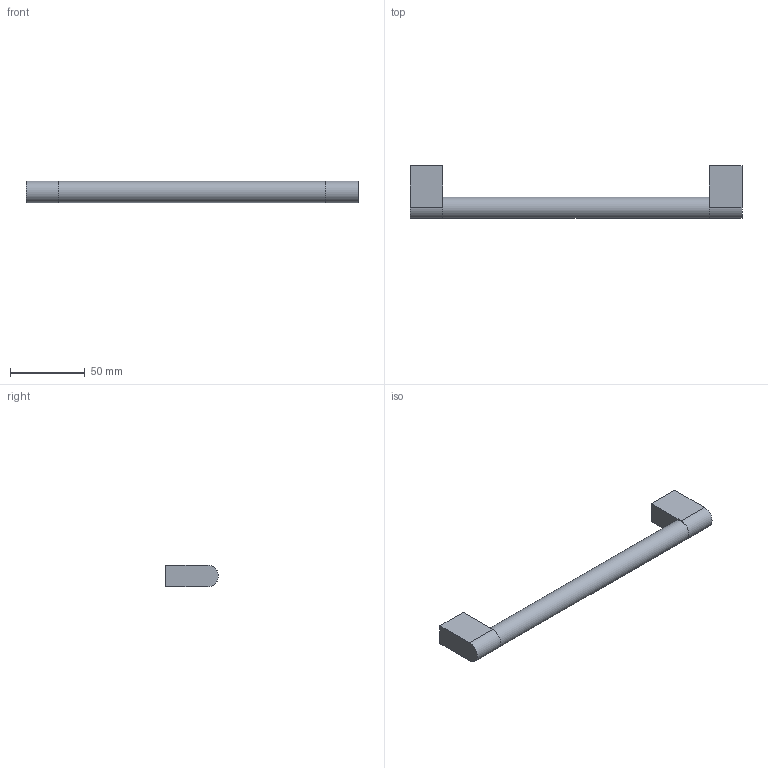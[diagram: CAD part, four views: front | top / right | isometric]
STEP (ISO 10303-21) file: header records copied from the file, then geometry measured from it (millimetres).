
FILE_DESCRIPTION( ( 'STEP AP214' ), '1' );
FILE_NAME( 'C:/Shahbaz/Shahbaz D&D/Task/Working-ON/Varna/QC/9332319.stp', '2023-08-29T06:56:30', ( '' ), ( '' ), ' ', 'PARTsolutions', ' ' );
FILE_SCHEMA( ( 'AUTOMOTIVE_DESIGN { 1 0 10303 214 1 1 1 1 }' ) );
Length unit declared in the file: millimetre
Products named in the file (1): _9332319
Bounding box: 222 x 35.36 x 14.64 mm (x, y, z)
Volume: 49049.3 mm3; surface area: 14310.5 mm2
Topology: 1 solids, 1 shells, 17 faces, 33 edges, 22 vertices
Faces by surface type: plane 12, cylinder 5
Full cylindrical faces by diameter (mm): 6.2 x2, 14.2 x1
Entity records: 574 total; most frequent: DIRECTION 76, CARTESIAN_POINT 70, ORIENTED_EDGE 60, EDGE_CURVE 30, AXIS2_PLACEMENT_3D 28, EDGE_LOOP 24, VERTEX_POINT 22, FACE_OUTER_BOUND 20
